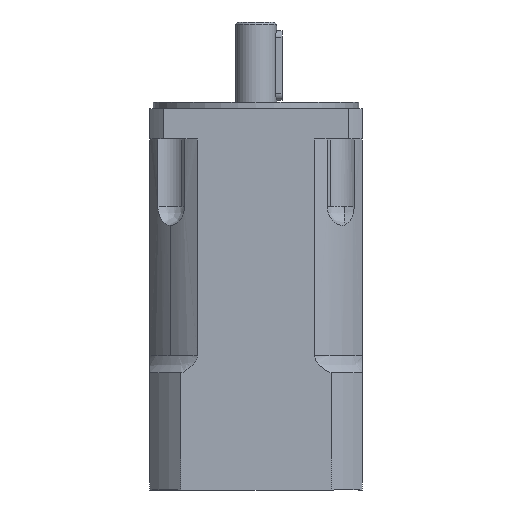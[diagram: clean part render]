
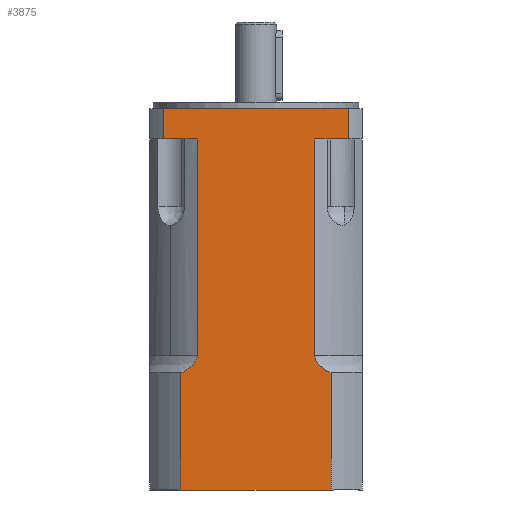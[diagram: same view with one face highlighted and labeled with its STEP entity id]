
A CAD part, front view. The second image highlights one B-rep face of the part: STEP entity #3875.
In plain terms, the highlighted planar face has unit normal (0, -1, 0).
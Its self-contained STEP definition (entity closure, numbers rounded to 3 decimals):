
#2058=CARTESIAN_POINT('',(-42.708,-49.0,176.));
#2059=VERTEX_POINT('',#2058);
#2060=CARTESIAN_POINT('',(-42.708,-49.0,162.0));
#2061=VERTEX_POINT('',#2060);
#2062=CARTESIAN_POINT('',(-42.708,-49.0,176.));
#2063=DIRECTION('',(0.0,0.0,-1.0));
#2064=VECTOR('',#2063,14.);
#2065=LINE('',#2062,#2064);
#2066=EDGE_CURVE('',#2059,#2061,#2065,.T.);
#2110=CARTESIAN_POINT('',(42.708,-49.0,176.));
#2111=VERTEX_POINT('',#2110);
#2119=CARTESIAN_POINT('',(42.708,-49.0,162.0));
#2120=VERTEX_POINT('',#2119);
#2121=CARTESIAN_POINT('',(42.708,-49.0,162.0));
#2122=DIRECTION('',(0.0,0.0,1.0));
#2123=VECTOR('',#2122,14.);
#2124=LINE('',#2121,#2123);
#2125=EDGE_CURVE('',#2120,#2111,#2124,.T.);
#2351=CARTESIAN_POINT('',(-27.111,-49.,162.0));
#2352=VERTEX_POINT('',#2351);
#2360=CARTESIAN_POINT('',(-27.111,-49.,162.0));
#2361=DIRECTION('',(-1.0,0.0,0.0));
#2362=VECTOR('',#2361,15.597);
#2363=LINE('',#2360,#2362);
#2364=EDGE_CURVE('',#2352,#2061,#2363,.T.);
#2548=CARTESIAN_POINT('',(27.111,-49.,162.0));
#2549=VERTEX_POINT('',#2548);
#2550=CARTESIAN_POINT('',(42.708,-49.0,162.0));
#2551=DIRECTION('',(-1.0,0.0,0.0));
#2552=VECTOR('',#2551,15.597);
#2553=LINE('',#2550,#2552);
#2554=EDGE_CURVE('',#2120,#2549,#2553,.T.);
#2743=CARTESIAN_POINT('',(42.708,-49.0,176.));
#2744=DIRECTION('',(-1.0,0.0,0.0));
#2745=VECTOR('',#2744,85.417);
#2746=LINE('',#2743,#2745);
#2747=EDGE_CURVE('',#2111,#2059,#2746,.T.);
#3250=CARTESIAN_POINT('',(-27.111,-49.,62.));
#3251=VERTEX_POINT('',#3250);
#3252=CARTESIAN_POINT('',(-34.627,-49.,54.0));
#3253=VERTEX_POINT('',#3252);
#3254=CARTESIAN_POINT('',(-27.111,-49.,62.));
#3255=CARTESIAN_POINT('',(-27.111,-49.,61.534));
#3256=CARTESIAN_POINT('',(-27.197,-49.,60.982));
#3257=CARTESIAN_POINT('',(-27.488,-49.,60.026));
#3258=CARTESIAN_POINT('',(-27.766,-49.,59.449));
#3259=CARTESIAN_POINT('',(-28.455,-49.,58.36));
#3260=CARTESIAN_POINT('',(-28.991,-49.,57.736));
#3261=CARTESIAN_POINT('',(-30.189,-49.,56.612));
#3262=CARTESIAN_POINT('',(-30.85,-49.,56.111));
#3263=CARTESIAN_POINT('',(-32.328,-49.,55.128));
#3264=CARTESIAN_POINT('',(-33.309,-49.,54.591));
#3265=CARTESIAN_POINT('',(-34.426,-49.,54.088));
#3266=CARTESIAN_POINT('',(-34.526,-49.,54.043));
#3267=CARTESIAN_POINT('',(-34.627,-49.,54.0));
#3268=B_SPLINE_CURVE_WITH_KNOTS('',3,(#3254,#3255,#3256,#3257,#3258,#3259,#3260,#3261,#3262,#3263,#3264,#3265,#3266,#3267),.UNSPECIFIED.,.F.,.U.,(4,2,2,2,2,2,4),(3.804,3.944,4.104,4.331,4.557,4.863,4.893),.UNSPECIFIED.);
#3269=EDGE_CURVE('',#3251,#3253,#3268,.T.);
#3552=CARTESIAN_POINT('',(-27.111,-49.,162.0));
#3553=DIRECTION('',(0.0,0.0,-1.0));
#3554=VECTOR('',#3553,100.);
#3555=LINE('',#3552,#3554);
#3556=EDGE_CURVE('',#2352,#3251,#3555,.T.);
#3691=CARTESIAN_POINT('',(27.111,-49.,62.));
#3692=VERTEX_POINT('',#3691);
#3700=CARTESIAN_POINT('',(34.627,-49.,54.0));
#3701=VERTEX_POINT('',#3700);
#3702=CARTESIAN_POINT('',(34.627,-49.,54.0));
#3703=CARTESIAN_POINT('',(34.526,-49.,54.043));
#3704=CARTESIAN_POINT('',(34.426,-49.,54.088));
#3705=CARTESIAN_POINT('',(33.309,-49.,54.591));
#3706=CARTESIAN_POINT('',(32.328,-49.,55.128));
#3707=CARTESIAN_POINT('',(30.85,-49.,56.111));
#3708=CARTESIAN_POINT('',(30.189,-49.0,56.612));
#3709=CARTESIAN_POINT('',(28.991,-49.0,57.736));
#3710=CARTESIAN_POINT('',(28.455,-49.,58.36));
#3711=CARTESIAN_POINT('',(27.766,-49.,59.449));
#3712=CARTESIAN_POINT('',(27.488,-49.,60.026));
#3713=CARTESIAN_POINT('',(27.197,-49.,60.982));
#3714=CARTESIAN_POINT('',(27.111,-49.,61.534));
#3715=CARTESIAN_POINT('',(27.111,-49.,62.));
#3716=B_SPLINE_CURVE_WITH_KNOTS('',3,(#3702,#3703,#3704,#3705,#3706,#3707,#3708,#3709,#3710,#3711,#3712,#3713,#3714,#3715),.UNSPECIFIED.,.F.,.U.,(4,2,2,2,2,2,4),(2.716,2.746,3.052,3.278,3.505,3.665,3.804),.UNSPECIFIED.);
#3717=EDGE_CURVE('',#3701,#3692,#3716,.T.);
#3736=CARTESIAN_POINT('',(27.111,-49.,62.));
#3737=DIRECTION('',(0.0,0.0,1.0));
#3738=VECTOR('',#3737,100.);
#3739=LINE('',#3736,#3738);
#3740=EDGE_CURVE('',#3692,#2549,#3739,.T.);
#3757=CARTESIAN_POINT('',(34.627,-49.,0.));
#3758=VERTEX_POINT('',#3757);
#3759=CARTESIAN_POINT('',(34.627,-49.,54.0));
#3760=DIRECTION('',(0.0,0.0,-1.0));
#3761=VECTOR('',#3760,54.);
#3762=LINE('',#3759,#3761);
#3763=EDGE_CURVE('',#3701,#3758,#3762,.T.);
#3833=CARTESIAN_POINT('',(-34.627,-49.,0.));
#3834=VERTEX_POINT('',#3833);
#3842=CARTESIAN_POINT('',(-34.627,-49.,0.));
#3843=DIRECTION('',(0.0,0.0,1.0));
#3844=VECTOR('',#3843,54.);
#3845=LINE('',#3842,#3844);
#3846=EDGE_CURVE('',#3834,#3253,#3845,.T.);
#3851=CARTESIAN_POINT('',(-46.979,-49.,184.8));
#3852=DIRECTION('',(0.0,-1.0,0.0));
#3853=DIRECTION('',(0.0,0.0,-1.0));
#3854=AXIS2_PLACEMENT_3D('',#3851,#3852,#3853);
#3855=PLANE('',#3854);
#3856=ORIENTED_EDGE('',*,*,#2066,.T.);
#3857=ORIENTED_EDGE('',*,*,#2364,.F.);
#3858=ORIENTED_EDGE('',*,*,#3556,.T.);
#3859=ORIENTED_EDGE('',*,*,#3269,.T.);
#3860=ORIENTED_EDGE('',*,*,#3846,.F.);
#3861=CARTESIAN_POINT('',(34.627,-49.,0.));
#3862=DIRECTION('',(-1.0,0.0,0.0));
#3863=VECTOR('',#3862,69.253);
#3864=LINE('',#3861,#3863);
#3865=EDGE_CURVE('',#3758,#3834,#3864,.T.);
#3866=ORIENTED_EDGE('',*,*,#3865,.F.);
#3867=ORIENTED_EDGE('',*,*,#3763,.F.);
#3868=ORIENTED_EDGE('',*,*,#3717,.T.);
#3869=ORIENTED_EDGE('',*,*,#3740,.T.);
#3870=ORIENTED_EDGE('',*,*,#2554,.F.);
#3871=ORIENTED_EDGE('',*,*,#2125,.T.);
#3872=ORIENTED_EDGE('',*,*,#2747,.T.);
#3873=EDGE_LOOP('',(#3856,#3857,#3858,#3859,#3860,#3866,#3867,#3868,#3869,#3870,#3871,#3872));
#3874=FACE_OUTER_BOUND('',#3873,.T.);
#3875=ADVANCED_FACE('',(#3874),#3855,.T.);
